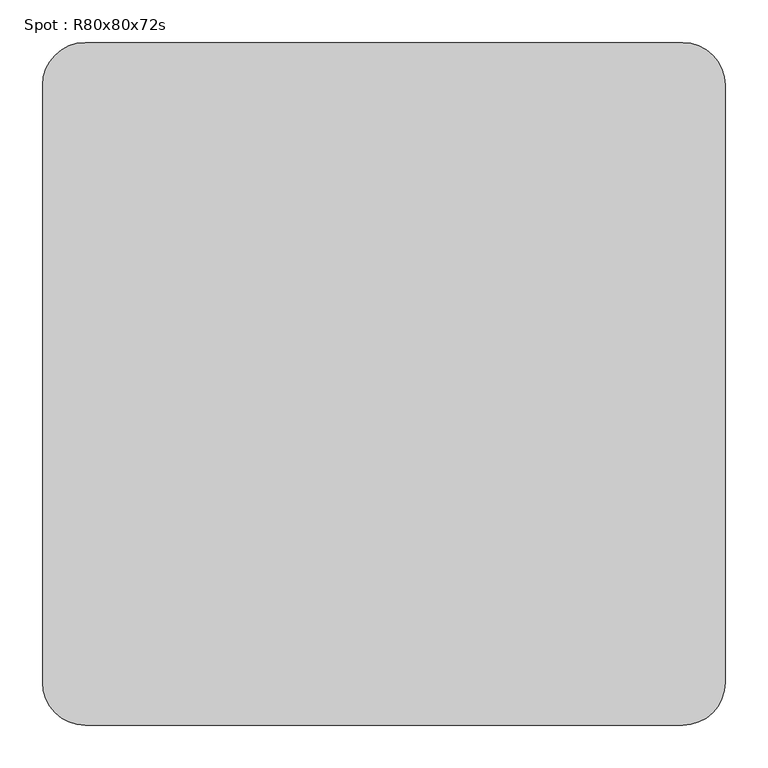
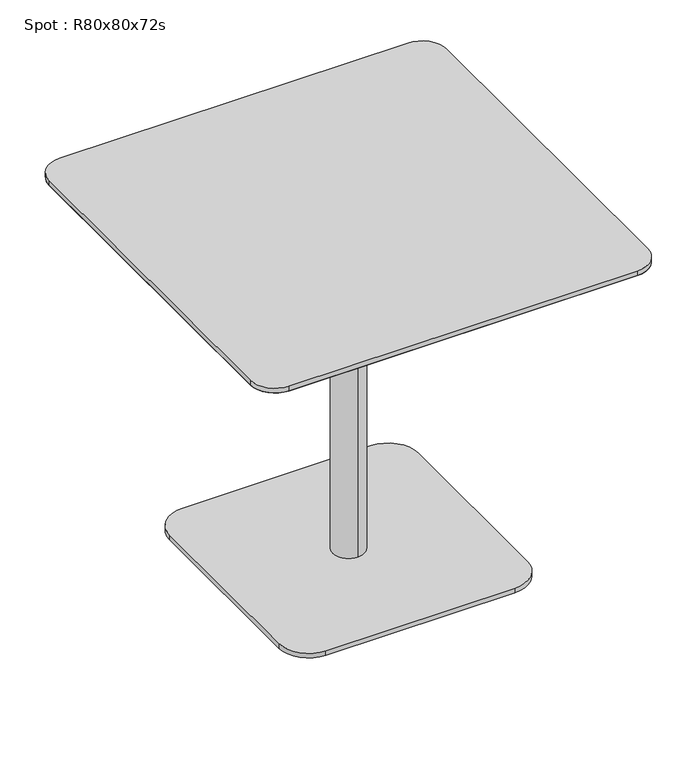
"""IFC4 building model written with IfcOpenShell, lengths in millimetres: furniture geometry, Spot : R80x80x72s."""

from ifc_helpers import new_model, si_unit, point, frame, frame_2d, origin, origin_with_axes, place, context, project, spatial, polyline, circle_curve, trimmed, segment, composite_curve, outline, extrude, source, transform, mapped, element, save
from ifc_brep_helpers import plane_surface, cylinder_surface, revolved_surface, advanced_brep


def spot_r80x80x72s_9ad5746e(model_context):
    return source(origin(), model_context, "Body", "SolidModel", [
        advanced_brep(
        [(-350.0, -350.0, 698.0), (-350.0, 350.0, 698.0), (350.0, 350.0, 698.0), (350.0, -350.0, 698.0), (-400.0, -350.0, 710.0), (-350.0, -400.0, 710.0), (350.0, -400.0, 710.0), (400.0, -350.0, 710.0), (400.0, 350.0, 710.0), (350.0, 400.0, 710.0), (-350.0, 400.0, 710.0), (-400.0, 350.0, 710.0)],
        [
            (0, 1),
            (1, 2),
            (2, 3),
            (3, 0),
            (4, 5, circle_curve(frame((-350.0, -350.0, 710.0), z_axis=(0.0, 0.0, 1.0), x_axis=(0.0, -1.0, 0.0)), 50.0)),
            (5, 6),
            (6, 7, circle_curve(frame((350.0, -350.0, 710.0), z_axis=(0.0, 0.0, 1.0), x_axis=(1.0, 0.0, 0.0)), 50.0)),
            (7, 8),
            (8, 9, circle_curve(frame((350.0, 350.0, 710.0), z_axis=(0.0, 0.0, 1.0), x_axis=(0.0, 1.0, 0.0)), 50.0)),
            (9, 10),
            (10, 11, circle_curve(frame((-350.0, 350.0, 710.0), z_axis=(0.0, 0.0, 1.0), x_axis=(-1.0, 0.0, 0.0)), 50.0)),
            (11, 4),
            (4, 0),
            (0, 5),
            (3, 6),
            (3, 7),
            (2, 8),
            (2, 9),
            (1, 10),
            (1, 11),
        ],
        [
            plane_surface(frame((0.0, 0.0, 698.0), z_axis=(0.0, 0.0, -1.0), x_axis=(-1.0, 0.0, 0.0))),
            plane_surface(frame((0.0, 0.0, 710.0), z_axis=(0.0, 0.0, 1.0), x_axis=(-1.0, 0.0, 0.0))),
            revolved_surface(polyline([(-350.0, -350.0, 698.0), (-350.0, -400.0, 710.0)]), (-350.0, -350.0, 698.0), (0.0, 0.0, 1.0)),
            plane_surface(frame((0.0, -400.0, 710.0), z_axis=(0.0, -0.23337295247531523, -0.9723873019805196), x_axis=(-1.0, 0.0, 0.0))),
            revolved_surface(polyline([(350.0, -350.0, 698.0), (400.0, -350.0, 710.0)]), (350.0, -350.0, 698.0), (0.0, 0.0, 1.0)),
            plane_surface(frame((400.0, 0.0, 710.0), z_axis=(0.23337295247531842, 0.0, -0.9723873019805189), x_axis=(0.0, -1.0, 0.0))),
            revolved_surface(polyline([(350.0, 350.0, 698.0), (350.0, 400.0, 710.0)]), (350.0, 350.0, 698.0), (0.0, 0.0, 1.0)),
            plane_surface(frame((0.0, 400.0, 710.0), z_axis=(0.0, 0.23337295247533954, -0.9723873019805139), x_axis=(1.0, 0.0, 0.0))),
            revolved_surface(polyline([(-350.0, 350.0, 698.0), (-400.0, 350.0, 710.0)]), (-350.0, 350.0, 698.0), (0.0, 0.0, 1.0)),
            plane_surface(frame((-400.0, 0.0, 710.0), z_axis=(-0.2333729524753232, 0.0, -0.9723873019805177), x_axis=(0.0, 1.0, 0.0))),
        ],
        [
            (0, [[1, 2, 3, 4]]),
            (1, [[5, 6, 7, 8, 9, 10, 11, 12]]),
            (2, [[-5, 13, 14]]),
            (3, [[-6, -14, -4, 15]]),
            (4, [[-7, -15, 16]]),
            (5, [[-8, -16, -3, 17]]),
            (6, [[-9, -17, 18]]),
            (7, [[-10, -18, -2, 19]]),
            (8, [[-11, -19, 20]]),
            (9, [[-12, -20, -1, -13]]),
        ],
    ),
        extrude(outline(composite_curve([segment(trimmed(circle_curve(frame_2d((350.0, 350.0)), 50.0), [point((350.0, 400.0))], [point((400.0, 350.0))], False, "CARTESIAN"), True, "CONTINUOUS"), segment(polyline([(400.0, 350.0), (400.0, -350.0)]), True, "CONTINUOUS"), segment(trimmed(circle_curve(frame_2d((350.0, -350.0)), 50.0), [point((400.0, -350.0))], [point((350.0, -400.0))], False, "CARTESIAN"), True, "CONTINUOUS"), segment(polyline([(350.0, -400.0), (-350.0, -400.0)]), True, "CONTINUOUS"), segment(trimmed(circle_curve(frame_2d((-350.0, -350.0)), 50.0), [point((-350.0, -400.0))], [point((-400.0, -350.0))], False, "CARTESIAN"), True, "CONTINUOUS"), segment(polyline([(-400.0, -350.0), (-400.0, 350.0)]), True, "CONTINUOUS"), segment(trimmed(circle_curve(frame_2d((-350.0, 350.0)), 50.0), [point((-400.0, 350.0))], [point((-350.0, 400.0))], False, "CARTESIAN"), True, "CONTINUOUS"), segment(polyline([(-350.0, 400.0), (350.0, 400.0)]), True, "CONTINUOUS")], self_intersect=False)), frame((0.0, 0.0, 710.0), z_axis=(0.0, 0.0, 1.0), x_axis=(1.0, 0.0, 0.0)), (0.0, 0.0, 1.0), 10.0),
        extrude(outline(composite_curve([segment(trimmed(circle_curve(frame_2d((190.0, 190.0)), 60.0), [point((190.0, 250.0))], [point((250.0, 190.0))], False, "CARTESIAN"), True, "CONTINUOUS"), segment(polyline([(250.0, 190.0), (250.0, -190.0)]), True, "CONTINUOUS"), segment(trimmed(circle_curve(frame_2d((190.0, -190.0)), 60.0), [point((250.0, -190.0))], [point((190.0, -250.0))], False, "CARTESIAN"), True, "CONTINUOUS"), segment(polyline([(190.0, -250.0), (-190.0, -250.0)]), True, "CONTINUOUS"), segment(trimmed(circle_curve(frame_2d((-190.0, -190.0)), 60.0), [point((-190.0, -250.0))], [point((-250.0, -190.0))], False, "CARTESIAN"), True, "CONTINUOUS"), segment(polyline([(-250.0, -190.0), (-250.0, 190.0)]), True, "CONTINUOUS"), segment(trimmed(circle_curve(frame_2d((-190.0, 190.0)), 60.0), [point((-250.0, 190.0))], [point((-190.0, 250.0))], False, "CARTESIAN"), True, "CONTINUOUS"), segment(polyline([(-190.0, 250.0), (190.0, 250.0)]), True, "CONTINUOUS")], self_intersect=False)), origin_with_axes(), (0.0, 0.0, 1.0), 10.0),
        advanced_brep(
        [(0.0, 32.0, 10.0), (0.0, -32.0, 10.0), (0.0, -32.0, 667.406916), (0.0, 32.0, 667.406916), (0.0, 0.0, 10.0), (0.0, 150.0, 698.0), (0.0, -150.0, 698.0), (0.0, 0.0, 698.0), (0.0, 150.0, 686.7213673), (0.0, -150.0, 686.7213673)],
        [
            (0, 1, circle_curve(frame((0.0, 0.0, 10.0), z_axis=(0.0, 0.0, 1.0), x_axis=(0.0, -1.0, 0.0)), 32.0)),
            (1, 2),
            (2, 3, circle_curve(frame((0.0, 0.0, 667.406916), z_axis=(0.0, 0.0, -1.0), x_axis=(0.0, -1.0, 0.0)), 32.0)),
            (3, 0),
            (1, 0, circle_curve(frame((0.0, 0.0, 10.0), z_axis=(0.0, 0.0, 1.0), x_axis=(0.0, -1.0, 0.0)), 32.0)),
            (3, 2, circle_curve(frame((0.0, 0.0, 667.406916), z_axis=(0.0, 0.0, -1.0), x_axis=(0.0, -1.0, 0.0)), 32.0)),
            (4, 1),
            (0, 4),
            (5, 6, circle_curve(frame((0.0, 0.0, 698.0), z_axis=(0.0, 0.0, 1.0), x_axis=(0.0, -1.0, 0.0)), 150.0)),
            (6, 7),
            (7, 5),
            (6, 5, circle_curve(frame((0.0, 0.0, 698.0), z_axis=(0.0, 0.0, 1.0), x_axis=(0.0, -1.0, 0.0)), 150.0)),
            (8, 9, circle_curve(frame((0.0, 0.0, 686.7213673), z_axis=(0.0, 0.0, 1.0), x_axis=(0.0, -1.0, 0.0)), 150.0)),
            (9, 6),
            (5, 8),
            (9, 8, circle_curve(frame((0.0, 0.0, 686.7213673), z_axis=(0.0, 0.0, 1.0), x_axis=(0.0, -1.0, 0.0)), 150.0)),
            (2, 9),
            (8, 3),
        ],
        [
            cylinder_surface(frame((0.0, 0.0, 1060.0), z_axis=(0.0, 0.0, -1.0), x_axis=(0.0, -1.0, 0.0)), 32.0),
            plane_surface(frame((0.0, 0.0, 10.0), z_axis=(0.0, 0.0, -1.0), x_axis=(0.0, -1.0, 0.0))),
            plane_surface(frame((0.0, 0.0, 698.0), z_axis=(0.0, 0.0, 1.0), x_axis=(0.0, -1.0, 0.0))),
            cylinder_surface(frame((0.0, 0.0, 1060.0), z_axis=(0.0, 0.0, -1.0), x_axis=(0.0, -1.0, 0.0)), 150.0),
            revolved_surface(polyline([(0.0, -150.0, 686.7213673), (0.0, -32.0, 667.406916)]), (0.0, 0.0, 1060.0), (0.0, 0.0, -1.0)),
        ],
        [
            (0, [[1, 2, 3, 4]]),
            (0, [[5, -4, 6, -2]]),
            (1, [[7, -1, 8]]),
            (1, [[-8, -5, -7]]),
            (2, [[9, 10, 11]]),
            (2, [[12, -11, -10]]),
            (3, [[13, 14, -9, 15]]),
            (3, [[16, -15, -12, -14]]),
            (4, [[-3, 17, -13, 18]]),
            (4, [[-6, -18, -16, -17]]),
        ],
    ),
        extrude(outline(polyline([(0.0, 0.0), (-20.0, 0.0), (-20.0, 20.0), (0.0, 20.0), (0.0, 0.0)])), origin_with_axes(), (0.0, 0.0, 1.0), 10.0),
    ])


if __name__ == "__main__":
    model = new_model("IFC4")
    model_context = context("Model", 3, world=origin())
    ifc_project = project(units=[si_unit("LENGTHUNIT", "METRE", prefix="MILLI")], contexts=[model_context])
    site = spatial("IfcSite", under=ifc_project)
    building = spatial("IfcBuilding", under=site)
    placement = place(None, origin())
    spot_r80x80x72s_shape = spot_r80x80x72s_9ad5746e(model_context)
    element("IfcFurniture", 1, ObjectType="Spot : R80x80x72s", at=placement, inside=building, context=model_context, shape_type="MappedRepresentation", body=[
        mapped(spot_r80x80x72s_shape, transform((0.0, 0.0, 0.0), x_axis=(1.0, 0.0, 0.0), y_axis=(0.0, 1.0, 0.0), z_axis=(0.0, 0.0, 1.0))),
    ])
    save(model, "model.ifc")
